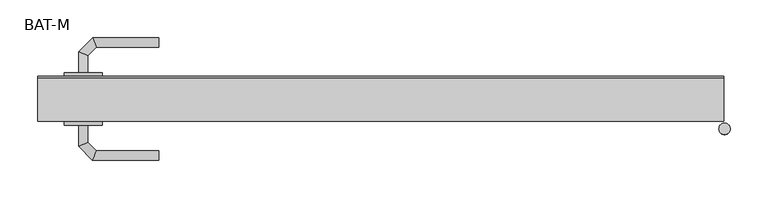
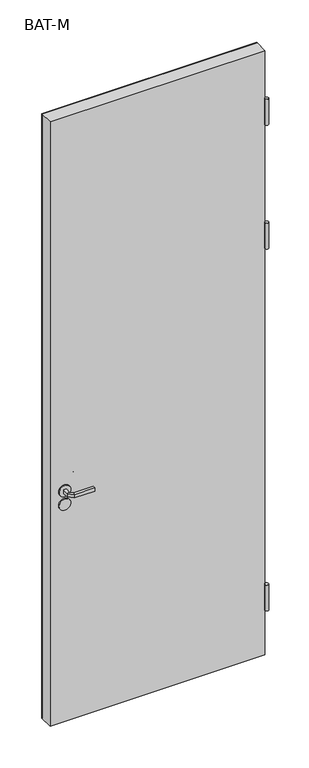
"""IFC4 building model written with IfcOpenShell, lengths in millimetres: proxy geometry, BAT-M : Défaut."""

from ifc_helpers import new_model, si_unit, point, frame, frame_2d, origin, place, context, project, spatial, polyline, circle_curve, ellipse_curve, trimmed, segment, composite_curve, outline, extrude, source, transform, mapped, element, save
from ifc_brep_helpers import plane_surface, cylinder_surface, advanced_brep


def bat_m_6d0092cd(model_context):
    return source(origin(), model_context, "Body", "SolidModel", [
        extrude(outline(composite_curve([segment(polyline([(1126.0, -833.5306002), (1126.0, -898.5306002), (916.0, -898.5306002), (916.0, -833.5306002)]), True, "CONTINUOUS"), segment(trimmed(circle_curve(frame_2d((956.0, -833.5306002)), 40.0), [point((916.0, -833.5306002))], [point((956.0, -793.5306002))], False, "CARTESIAN"), True, "CONTINUOUS"), segment(polyline([(956.0, -793.5306002), (1086.0, -793.5306002)]), True, "CONTINUOUS"), segment(trimmed(circle_curve(frame_2d((1086.0, -833.5306002)), 40.0), [point((1086.0, -793.5306002))], [point((1126.0, -833.5306002))], False, "CARTESIAN"), True, "CONTINUOUS")], self_intersect=False)), frame((0.0, 7.9132708, 0.0), z_axis=(0.0, 1.0, 0.0), x_axis=(0.0, 0.0, 1.0)), (0.0, 0.0, 1.0), 43.4267377),
        extrude(outline(composite_curve([segment(trimmed(circle_curve(frame_2d((1051.0, -848.7739009)), 25.0), [point((1051.0, -873.7739009))], [point((1051.0, -823.7739009))], False, "CARTESIAN"), True, "CONTINUOUS"), segment(trimmed(circle_curve(frame_2d((1051.0, -848.7739009)), 25.0), [point((1051.0, -823.7739009))], [point((1051.0, -873.7739009))], False, "CARTESIAN"), True, "CONTINUOUS")], self_intersect=False)), frame((0.0, 59.5, 0.0), z_axis=(0.0, 1.0, 0.0), x_axis=(0.0, 0.0, 1.0)), (0.0, 0.0, 1.0), 5.0),
        extrude(outline(composite_curve([segment(trimmed(circle_curve(frame_2d((991.25, -848.9257392)), 25.0), [point((991.25, -873.9257392))], [point((991.25, -823.9257392))], False, "CARTESIAN"), True, "CONTINUOUS"), segment(trimmed(circle_curve(frame_2d((991.25, -848.9257392)), 25.0), [point((991.25, -823.9257392))], [point((991.25, -873.9257392))], False, "CARTESIAN"), True, "CONTINUOUS")], self_intersect=False)), frame((0.0, 59.5, 0.0), z_axis=(0.0, 1.0, 0.0), x_axis=(0.0, 0.0, 1.0)), (0.0, 0.0, 1.0), 5.0),
        advanced_brep(
        [(-843.0, 64.5, 1044.0), (-843.0, 64.5, 1058.0), (-855.0, 64.5, 1058.0), (-855.0, 64.5, 1044.0), (-843.0, 86.9852045, 1044.0), (-843.0, 86.9852045, 1058.0), (-855.0, 91.9557673, 1058.0), (-855.0, 91.9557673, 1044.0), (-831.5147186, 98.4704859, 1044.0), (-831.5147186, 98.4704859, 1058.0), (-836.4852814, 110.4704859, 1058.0), (-836.4852814, 110.4704859, 1044.0), (-748.9542163, 98.4704859, 1044.0), (-748.9542163, 110.4704859, 1044.0), (-748.9542163, 110.4704859, 1058.0), (-748.9542163, 98.4704859, 1058.0)],
        [
            (0, 1),
            (1, 2, circle_curve(frame((-849.0, 64.5, 1037.9542278), z_axis=(0.0, -1.0, 0.0), x_axis=(-1.0, 0.0, 0.0)), 20.9244589)),
            (2, 3),
            (3, 0, circle_curve(frame((-849.0, 64.5, 1064.0457722), z_axis=(0.0, -1.0, 0.0), x_axis=(-1.0, 0.0, 0.0)), 20.9244589)),
            (0, 4),
            (4, 5),
            (5, 1),
            (5, 6, ellipse_curve(frame((-849.0, 89.4704859, 1037.9542278), z_axis=(-0.3826834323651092, -0.9238795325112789, 0.0), x_axis=(0.9238795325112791, -0.3826834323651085, 0.0)), 22.6484711, 20.9244589)),
            (6, 2),
            (6, 7),
            (7, 3),
            (7, 4, ellipse_curve(frame((-849.0, 89.4704859, 1064.0457722), z_axis=(-0.3826834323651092, -0.9238795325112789, 0.0), x_axis=(0.9238795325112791, -0.3826834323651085, 0.0)), 22.6484711, 20.9244589)),
            (4, 8),
            (8, 9),
            (9, 5),
            (9, 10, ellipse_curve(frame((-834.0, 104.4704859, 1037.9542278), z_axis=(-0.923879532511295, -0.38268343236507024, 0.0), x_axis=(0.3826834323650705, -0.9238795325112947, 0.0)), 22.6484711, 20.9244589)),
            (10, 6),
            (10, 11),
            (11, 7),
            (11, 8, ellipse_curve(frame((-834.0, 104.4704859, 1064.0457722), z_axis=(-0.923879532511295, -0.38268343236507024, 0.0), x_axis=(0.3826834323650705, -0.9238795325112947, 0.0)), 22.6484711, 20.9244589)),
            (12, 13, circle_curve(frame((-748.9542163, 104.4704859, 1064.0457722), z_axis=(1.0, 0.0, 0.0), x_axis=(0.0, 1.0, 0.0)), 20.9244589)),
            (13, 14),
            (14, 15, circle_curve(frame((-748.9542163, 104.4704859, 1037.9542278), z_axis=(1.0, 0.0, 0.0), x_axis=(0.0, 1.0, 0.0)), 20.9244589)),
            (15, 12),
            (8, 12),
            (15, 9),
            (14, 10),
            (13, 11),
        ],
        [
            plane_surface(frame((-858.2195445, 64.5, 1051.0), z_axis=(0.0, -1.0, 0.0), x_axis=(0.0, 0.0, 1.0))),
            plane_surface(frame((-843.0, 64.5, 1044.0), z_axis=(1.0, 0.0, 0.0), x_axis=(0.0, 1.0, 0.0))),
            cylinder_surface(frame((-849.0, 64.5, 1037.9542278), z_axis=(0.0, -1.0, 0.0), x_axis=(-1.0, 0.0, 0.0)), 20.9244589),
            plane_surface(frame((-855.0, 64.5, 1058.0), z_axis=(-1.0, 0.0, 0.0), x_axis=(0.0, 1.0, 0.0))),
            cylinder_surface(frame((-849.0, 64.5, 1064.0457722), z_axis=(0.0, -1.0, 0.0), x_axis=(-1.0, 0.0, 0.0)), 20.9244589),
            plane_surface(frame((-843.0, 86.9852045, 1044.0), z_axis=(0.7071067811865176, -0.7071067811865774, 0.0), x_axis=(0.7071067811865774, 0.7071067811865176, 0.0))),
            cylinder_surface(frame((-849.0, 89.4704859, 1037.9542278), z_axis=(-0.7071067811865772, -0.7071067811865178, 0.0), x_axis=(-0.7071067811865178, 0.7071067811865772, 0.0)), 20.9244589),
            plane_surface(frame((-855.0, 91.9557673, 1058.0), z_axis=(-0.7071067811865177, 0.7071067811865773, 0.0), x_axis=(0.7071067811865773, 0.7071067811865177, 0.0))),
            cylinder_surface(frame((-849.0, 89.4704859, 1064.0457722), z_axis=(-0.7071067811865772, -0.7071067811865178, 0.0), x_axis=(-0.7071067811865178, 0.7071067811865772, 0.0)), 20.9244589),
            plane_surface(frame((-748.9542163, 104.4704859, 1041.7804555), z_axis=(1.0, 0.0, 0.0), x_axis=(0.0, 1.0, 0.0))),
            plane_surface(frame((-831.5147186, 98.4704859, 1044.0), z_axis=(0.0, -1.0, 0.0), x_axis=(1.0, 0.0, 0.0))),
            cylinder_surface(frame((-834.0, 104.4704859, 1037.9542278), z_axis=(-1.0, 0.0, 0.0), x_axis=(0.0, 1.0, 0.0)), 20.9244589),
            plane_surface(frame((-836.4852814, 110.4704859, 1058.0), z_axis=(0.0, 1.0, 0.0), x_axis=(1.0, 0.0, 0.0))),
            cylinder_surface(frame((-834.0, 104.4704859, 1064.0457722), z_axis=(-1.0, 0.0, 0.0), x_axis=(0.0, 1.0, 0.0)), 20.9244589),
        ],
        [
            (0, [[1, 2, 3, 4]]),
            (1, [[-1, 5, 6, 7]]),
            (2, [[-2, -7, 8, 9]]),
            (3, [[-3, -9, 10, 11]]),
            (4, [[-4, -11, 12, -5]]),
            (5, [[-6, 13, 14, 15]]),
            (6, [[-8, -15, 16, 17]]),
            (7, [[-10, -17, 18, 19]]),
            (8, [[-12, -19, 20, -13]]),
            (9, [[21, 22, 23, 24]]),
            (10, [[-14, 25, -24, 26]]),
            (11, [[-16, -26, -23, 27]]),
            (12, [[-18, -27, -22, 28]]),
            (13, [[-20, -28, -21, -25]]),
        ],
    ),
        advanced_brep(
        [(-855.0, -5.0, 1058.0), (-843.0, -5.0, 1058.0), (-843.0, -5.0, 1044.0), (-855.0, -5.0, 1044.0), (-855.0, -32.6509507, 1058.0), (-843.0, -27.680388, 1058.0), (-843.0, -27.680388, 1044.0), (-855.0, -32.6509507, 1044.0), (-836.62279, -51.0281607, 1058.0), (-831.6522273, -39.0281607, 1058.0), (-831.6522273, -39.0281607, 1044.0), (-836.62279, -51.0281607, 1044.0), (-748.9813594, -51.0281607, 1058.0), (-748.9813594, -51.0281607, 1044.0), (-748.9813594, -39.0281607, 1044.0), (-748.9813594, -39.0281607, 1058.0)],
        [
            (0, 1, circle_curve(frame((-849.0, -5.0, 1037.9542278), z_axis=(0.0, 1.0, 0.0), x_axis=(1.0, 0.0, 0.0)), 20.9244589)),
            (1, 2),
            (2, 3, circle_curve(frame((-849.0, -5.0, 1064.0457722), z_axis=(0.0, 1.0, 0.0), x_axis=(1.0, 0.0, 0.0)), 20.9244589)),
            (3, 0),
            (0, 4),
            (4, 5, ellipse_curve(frame((-849.0, -30.1656693, 1037.9542278), z_axis=(-0.38268343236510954, 0.9238795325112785, 0.0), x_axis=(0.9238795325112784, 0.38268343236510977, 0.0)), 22.6484711, 20.9244589)),
            (5, 1),
            (5, 6),
            (6, 2),
            (6, 7, ellipse_curve(frame((-849.0, -30.1656693, 1064.0457722), z_axis=(-0.38268343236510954, 0.9238795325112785, 0.0), x_axis=(0.9238795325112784, 0.38268343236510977, 0.0)), 22.6484711, 20.9244589)),
            (7, 3),
            (7, 4),
            (4, 8),
            (8, 9, ellipse_curve(frame((-834.1375086, -45.0281607, 1037.9542278), z_axis=(-0.9238795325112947, 0.38268343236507, 0.0), x_axis=(0.38268343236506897, 0.9238795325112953, 0.0)), 22.6484711, 20.9244589)),
            (9, 5),
            (9, 10),
            (10, 6),
            (10, 11, ellipse_curve(frame((-834.1375086, -45.0281607, 1064.0457722), z_axis=(-0.9238795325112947, 0.38268343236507, 0.0), x_axis=(0.38268343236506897, 0.9238795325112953, 0.0)), 22.6484711, 20.9244589)),
            (11, 7),
            (11, 8),
            (12, 13),
            (13, 14, circle_curve(frame((-748.9813594, -45.0281607, 1064.0457722), z_axis=(1.0, 0.0, 0.0), x_axis=(0.0, 1.0, 0.0)), 20.9244589)),
            (14, 15),
            (15, 12, circle_curve(frame((-748.9813594, -45.0281607, 1037.9542278), z_axis=(1.0, 0.0, 0.0), x_axis=(0.0, 1.0, 0.0)), 20.9244589)),
            (8, 12),
            (15, 9),
            (14, 10),
            (13, 11),
        ],
        [
            plane_surface(frame((-858.2195445, -5.0, 1051.0), z_axis=(0.0, 1.0, 0.0), x_axis=(0.0, 0.0, -1.0))),
            cylinder_surface(frame((-849.0, -5.0, 1037.9542278), z_axis=(0.0, 1.0, 0.0), x_axis=(1.0, 0.0, 0.0)), 20.9244589),
            plane_surface(frame((-843.0, -5.0, 1058.0), z_axis=(1.0, 0.0, 0.0), x_axis=(0.0, -1.0, 0.0))),
            cylinder_surface(frame((-849.0, -5.0, 1064.0457722), z_axis=(0.0, 1.0, 0.0), x_axis=(1.0, 0.0, 0.0)), 20.9244589),
            plane_surface(frame((-855.0, -5.0, 1044.0), z_axis=(-1.0, 0.0, 0.0), x_axis=(0.0, -1.0, 0.0))),
            cylinder_surface(frame((-849.0, -30.1656693, 1037.9542278), z_axis=(-0.7071067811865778, 0.7071067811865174, 0.0), x_axis=(0.7071067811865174, 0.7071067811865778, 0.0)), 20.9244589),
            plane_surface(frame((-843.0, -27.680388, 1058.0), z_axis=(0.707106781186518, 0.7071067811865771, 0.0), x_axis=(0.7071067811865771, -0.707106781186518, 0.0))),
            cylinder_surface(frame((-849.0, -30.1656693, 1064.0457722), z_axis=(-0.7071067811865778, 0.7071067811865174, 0.0), x_axis=(0.7071067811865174, 0.7071067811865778, 0.0)), 20.9244589),
            plane_surface(frame((-855.0, -32.6509507, 1044.0), z_axis=(-0.7071067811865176, -0.7071067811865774, 0.0), x_axis=(0.7071067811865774, -0.7071067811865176, 0.0))),
            plane_surface(frame((-748.9813594, -45.0281607, 1041.7804555), z_axis=(1.0, 0.0, 0.0), x_axis=(0.0, 1.0, 0.0))),
            cylinder_surface(frame((-834.1375086, -45.0281607, 1037.9542278), z_axis=(-1.0, 0.0, 0.0), x_axis=(0.0, 1.0, 0.0)), 20.9244589),
            plane_surface(frame((-831.6522273, -39.0281607, 1058.0), z_axis=(0.0, 1.0, 0.0), x_axis=(1.0, 0.0, 0.0))),
            cylinder_surface(frame((-834.1375086, -45.0281607, 1064.0457722), z_axis=(-1.0, 0.0, 0.0), x_axis=(0.0, 1.0, 0.0)), 20.9244589),
            plane_surface(frame((-836.62279, -51.0281607, 1044.0), z_axis=(0.0, -1.0, 0.0), x_axis=(1.0, 0.0, 0.0))),
        ],
        [
            (0, [[1, 2, 3, 4]]),
            (1, [[-1, 5, 6, 7]]),
            (2, [[-2, -7, 8, 9]]),
            (3, [[-3, -9, 10, 11]]),
            (4, [[-4, -11, 12, -5]]),
            (5, [[-6, 13, 14, 15]]),
            (6, [[-8, -15, 16, 17]]),
            (7, [[-10, -17, 18, 19]]),
            (8, [[-12, -19, 20, -13]]),
            (9, [[21, 22, 23, 24]]),
            (10, [[-14, 25, -24, 26]]),
            (11, [[-16, -26, -23, 27]]),
            (12, [[-18, -27, -22, 28]]),
            (13, [[-20, -28, -21, -25]]),
        ],
    ),
        extrude(outline(composite_curve([segment(trimmed(circle_curve(frame_2d((1051.0, -848.7739009)), 25.0), [point((1051.0, -873.7739009))], [point((1051.0, -823.7739009))], False, "CARTESIAN"), True, "CONTINUOUS"), segment(trimmed(circle_curve(frame_2d((1051.0, -848.7739009)), 25.0), [point((1051.0, -823.7739009))], [point((1051.0, -873.7739009))], False, "CARTESIAN"), True, "CONTINUOUS")], self_intersect=False)), frame((0.0, -5.0, 0.0), z_axis=(0.0, 1.0, 0.0), x_axis=(0.0, 0.0, 1.0)), (0.0, 0.0, 1.0), 5.0),
        extrude(outline(composite_curve([segment(trimmed(circle_curve(frame_2d((991.0, -848.9257392)), 25.0), [point((991.0, -873.9257392))], [point((991.0, -823.9257392))], False, "CARTESIAN"), True, "CONTINUOUS"), segment(trimmed(circle_curve(frame_2d((991.0, -848.9257392)), 25.0), [point((991.0, -823.9257392))], [point((991.0, -873.9257392))], False, "CARTESIAN"), True, "CONTINUOUS")], self_intersect=False)), frame((0.0, -5.0, 0.0), z_axis=(0.0, 1.0, 0.0), x_axis=(0.0, 0.0, 1.0)), (0.0, 0.0, 1.0), 5.0),
        extrude(outline(polyline([(-1.0, 57.5), (-909.0, 57.5), (-909.0, 59.5), (-1.0, 59.5), (-1.0, 57.5)])), frame((0.0, 0.0, 19.0), z_axis=(0.0, 0.0, 1.0), x_axis=(1.0, 0.0, 0.0)), (0.0, 0.0, 1.0), 2699.0),
        extrude(outline(polyline([(-909.0, 57.5), (-909.0, 59.5), (-1.0, 59.5), (-1.0, 57.5), (-909.0, 57.5)])), frame((0.0, 0.0, 19.0), z_axis=(0.0, 0.0, 1.0), x_axis=(1.0, 0.0, 0.0)), (0.0, 0.0, 1.0), 2699.0),
        extrude(outline(polyline([(-909.0, 59.5), (-1.0, 59.5), (-1.0, 0.0), (-909.0, 0.0), (-909.0, 59.5)])), frame((0.0, 0.0, 19.0), z_axis=(0.0, 0.0, 1.0), x_axis=(1.0, 0.0, 0.0)), (0.0, 0.0, 1.0), 2699.0),
        extrude(outline(composite_curve([segment(trimmed(circle_curve(frame_2d((0.0, -10.0)), 7.5), [point((7.5, -10.0))], [point((-7.5, -10.0))], False, "CARTESIAN"), True, "CONTINUOUS"), segment(trimmed(circle_curve(frame_2d((0.0, -10.0)), 7.5), [point((-7.5, -10.0))], [point((7.5, -10.0))], False, "CARTESIAN"), True, "CONTINUOUS")], self_intersect=False)), frame((0.0, 0.0, 2395.5), z_axis=(0.0, 0.0, 1.0), x_axis=(1.0, 0.0, 0.0)), (0.0, 0.0, 1.0), 115.0),
        extrude(outline(composite_curve([segment(trimmed(circle_curve(frame_2d((0.0, -10.0)), 7.5), [point((7.5, -10.0))], [point((-7.5, -10.0))], False, "CARTESIAN"), True, "CONTINUOUS"), segment(trimmed(circle_curve(frame_2d((0.0, -10.0)), 7.5), [point((-7.5, -10.0))], [point((7.5, -10.0))], False, "CARTESIAN"), True, "CONTINUOUS")], self_intersect=False)), frame((0.0, 0.0, 1842.5), z_axis=(0.0, 0.0, 1.0), x_axis=(1.0, 0.0, 0.0)), (0.0, 0.0, 1.0), 115.0),
        extrude(outline(composite_curve([segment(trimmed(circle_curve(frame_2d((0.0, -10.0)), 7.5), [point((7.5, -10.0))], [point((-7.5, -10.0))], False, "CARTESIAN"), True, "CONTINUOUS"), segment(trimmed(circle_curve(frame_2d((0.0, -10.0)), 7.5), [point((-7.5, -10.0))], [point((7.5, -10.0))], False, "CARTESIAN"), True, "CONTINUOUS")], self_intersect=False)), frame((0.0, 0.0, 226.5), z_axis=(0.0, 0.0, 1.0), x_axis=(1.0, 0.0, 0.0)), (0.0, 0.0, 1.0), 115.0),
    ])


if __name__ == "__main__":
    model = new_model("IFC4")
    model_context = context("Model", 3, world=origin())
    ifc_project = project(units=[si_unit("LENGTHUNIT", "METRE", prefix="MILLI")], contexts=[model_context])
    site = spatial("IfcSite", under=ifc_project)
    building = spatial("IfcBuilding", under=site)
    placement = place(None, origin())
    bat_m_shape = bat_m_6d0092cd(model_context)
    element("IfcBuildingElementProxy", 1, Name="BAT-M : Défaut", ObjectType="BAT-M : Défaut", at=placement, inside=building, context=model_context, shape_type="MappedRepresentation", body=[
        mapped(bat_m_shape, transform((0.0, 0.0, 0.0), x_axis=(1.0, 0.0, 0.0), y_axis=(0.0, 1.0, 0.0), z_axis=(0.0, 0.0, 1.0))),
    ])
    save(model, "model.ifc")
